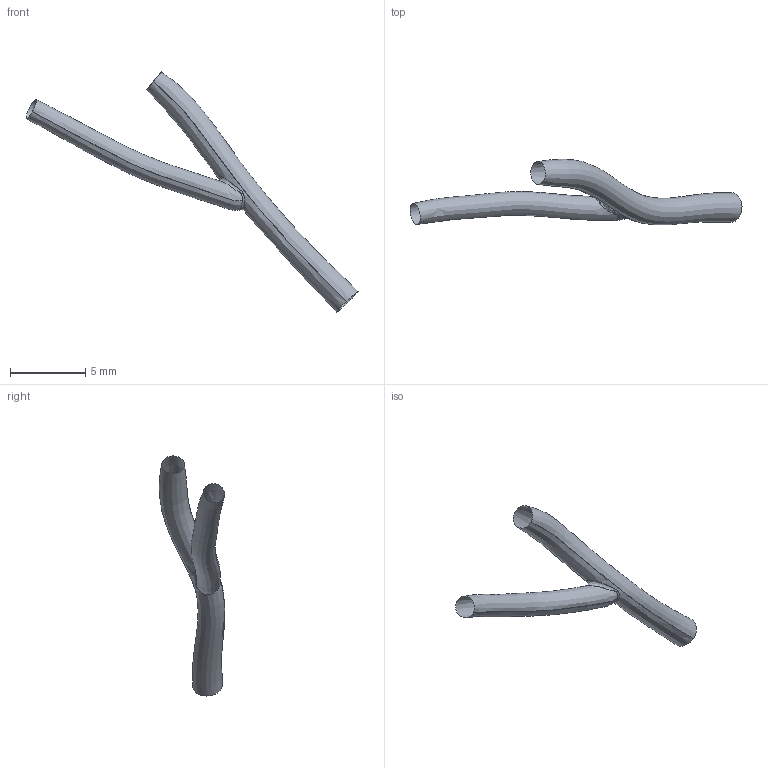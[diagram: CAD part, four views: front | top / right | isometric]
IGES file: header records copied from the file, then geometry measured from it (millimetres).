
Global section: file name: C:\Documents and Settings\Administrator\Desktop\FDA Bifurcation win\RawData_for_IGES\HRCA_Data\20010719.140840\IGES\20010719.140840.PDA.BIFUR.ES.igs; native system: Rhinoceros ( May 19 2006 ); preprocessor: Trout Lake IGES 012 May 19 2006; date: 100728.210738; units: centimetre
Bounding box: 22.11 x 4.37 x 15.99 mm (x, y, z)
Surface area: 185.7 mm2 (no closed solid volume)
Topology: 0 solids, 0 shells, 3 faces, 52 edges, 47 vertices
Faces by surface type: bspline 3
